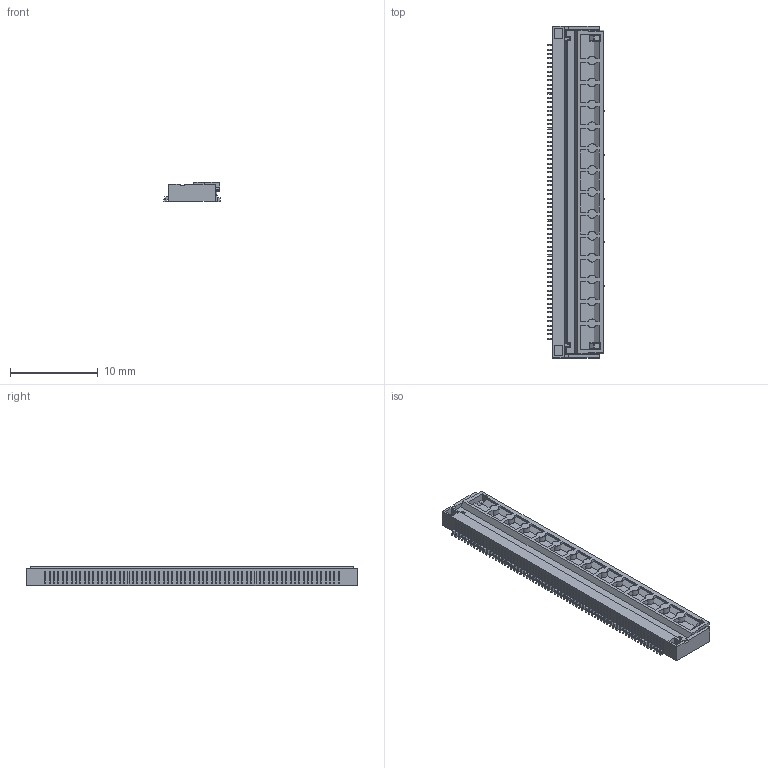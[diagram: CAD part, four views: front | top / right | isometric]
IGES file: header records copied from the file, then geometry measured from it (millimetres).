
Start section: SolidWorks IGES file using analytic representation for surfaces
Bounding box: 6.5 x 37.9 x 2.2 mm (x, y, z)
Surface area: 1194.2 mm2 (no closed solid volume)
Topology: 0 solids, 0 shells, 1632 faces, 10955 edges, 10955 vertices
Faces by surface type: bspline 1157, revolution 475
